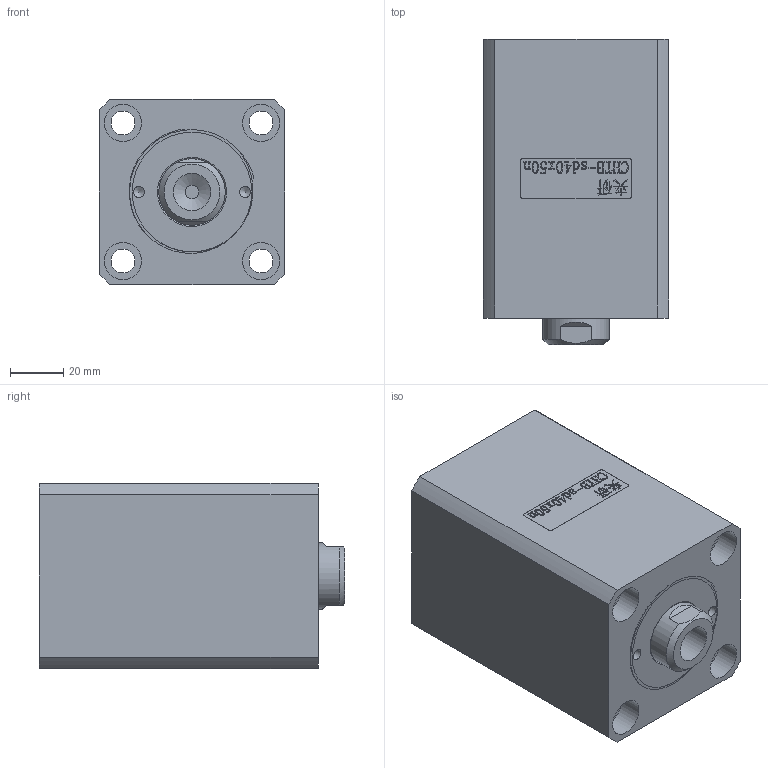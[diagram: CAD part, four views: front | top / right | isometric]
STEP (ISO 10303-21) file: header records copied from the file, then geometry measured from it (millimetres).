
FILE_DESCRIPTION(/* description */ (''),/* implementation_level */ '2;1');
FILE_NAME(/* name */ 'CHTB-sd40x50n.stp',/* time_stamp */ '2022-04-29T17:40:21+08:00',/* author */ (''),/* organization */ (''),/* preprocessor_version */ 'ST-DEVELOPER v16.7',/* originating_system */ 'SIEMENS PLM Software NX 12.0',/* authorisation */ '');
FILE_SCHEMA (('AUTOMOTIVE_DESIGN { 1 0 10303 214 3 1 1 1 }'));
Length unit declared in the file: millimetre
Products named in the file (1): CHTB-sd40x50n
Bounding box: 70 x 115 x 70 mm (x, y, z)
Volume: 431444.3 mm3; surface area: 88735.6 mm2
Topology: 3 solids, 3 shells, 434 faces, 1153 edges, 771 vertices
Faces by surface type: plane 278, extrusion 93, cylinder 39, torus 11, cone 7, bspline 6
Full cylindrical faces by diameter (mm): 4.2 x2, 5 x3, 9 x4, 10.7 x2, 14 x9, 25 x2, 29 x1, 34 x2, 40 x4, 45 x1
Entity records: 19397 total; most frequent: CARTESIAN_POINT 6835, ORIENTED_EDGE 2170, DIRECTION 1715, EDGE_CURVE 1085, VECTOR 859, LINE 766, VERTEX_POINT 755, EDGE_LOOP 544
